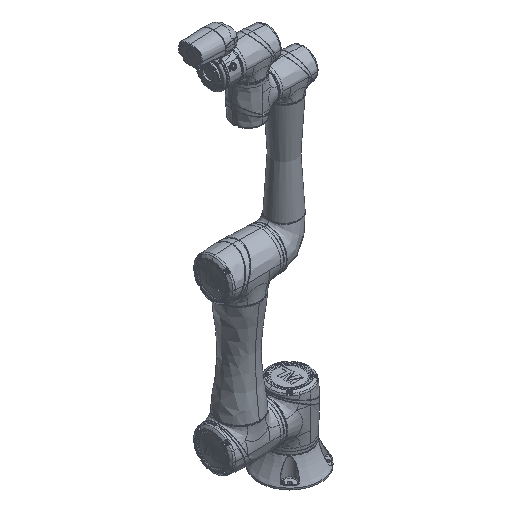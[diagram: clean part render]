
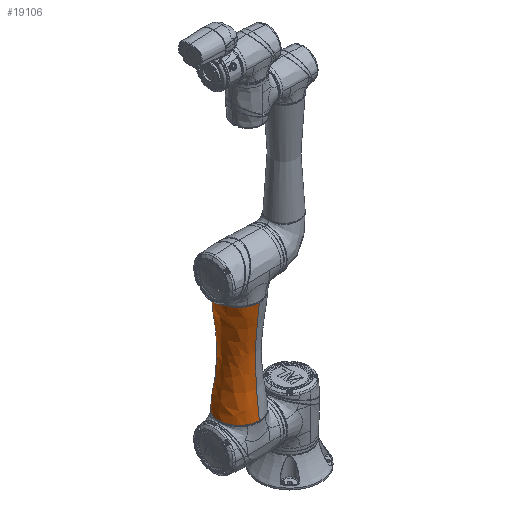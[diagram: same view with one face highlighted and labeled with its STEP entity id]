
A CAD part, isometric view. The second image highlights one B-rep face of the part: STEP entity #19106.
In plain terms, the highlighted face is a revolution surface.
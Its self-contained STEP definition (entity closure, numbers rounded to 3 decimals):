
#18900=CARTESIAN_POINT('',(0.,147.5,0.));
#18901=DIRECTION('',(0.,-1.,0.));
#18902=DIRECTION('',(1.,0.,0.));
#18903=AXIS2_PLACEMENT_3D('',#18900,#18901,#18902);
#18915=CARTESIAN_POINT('',(-58.469,147.5,0.));
#18916=CARTESIAN_POINT('',(-58.469,138.775,
0.));
#18917=CARTESIAN_POINT('',(-56.381,117.825,
0.));
#18918=CARTESIAN_POINT('',(-51.162,80.727,
0.));
#18919=CARTESIAN_POINT('',(-46.837,40.891,
0.));
#18920=CARTESIAN_POINT('',(-45.196,0.,
0.));
#18921=CARTESIAN_POINT('',(-46.837,-40.891,
0.));
#18922=CARTESIAN_POINT('',(-51.162,-80.727,
0.));
#18923=CARTESIAN_POINT('',(-56.381,-117.825,
0.));
#18924=CARTESIAN_POINT('',(-58.469,-138.775,
0.));
#18925=CARTESIAN_POINT('',(-58.469,-147.5,0.));
#18932=CARTESIAN_POINT('',(0.,-147.5,0.));
#18933=DIRECTION('',(0.,1.,0.));
#18934=DIRECTION('',(-1.,0.,0.));
#18935=AXIS2_PLACEMENT_3D('',#18932,#18933,#18934);
#18947=CARTESIAN_POINT('',(58.469,147.5,0.));
#18948=CARTESIAN_POINT('',(58.469,138.775,
0.));
#18949=CARTESIAN_POINT('',(56.381,117.825,
0.));
#18950=CARTESIAN_POINT('',(51.162,80.727,
0.));
#18951=CARTESIAN_POINT('',(46.837,40.891,
0.));
#18952=CARTESIAN_POINT('',(45.196,0.,
0.));
#18953=CARTESIAN_POINT('',(46.837,-40.891,
0.));
#18954=CARTESIAN_POINT('',(51.162,-80.727,
0.));
#18955=CARTESIAN_POINT('',(56.381,-117.825,
0.));
#18956=CARTESIAN_POINT('',(58.469,-138.775,
0.));
#18957=CARTESIAN_POINT('',(58.469,-147.5,0.));
#18995=CARTESIAN_POINT('',(-58.469,147.5,0.));
#18996=CARTESIAN_POINT('',(58.469,147.5,0.));
#18997=VERTEX_POINT('',#18995);
#18998=VERTEX_POINT('',#18996);
#19003=CARTESIAN_POINT('',(58.469,-147.5,0.));
#19004=CARTESIAN_POINT('',(-58.469,-147.5,0.));
#19005=VERTEX_POINT('',#19003);
#19006=VERTEX_POINT('',#19004);
#19082=CARTESIAN_POINT('',(-58.426,150.462,0.));
#19083=CARTESIAN_POINT('',(-58.455,149.499,0.));
#19084=CARTESIAN_POINT('',(-58.59,139.99,0.));
#19085=CARTESIAN_POINT('',(-56.381,117.825,0.));
#19086=CARTESIAN_POINT('',(-51.162,80.727,0.));
#19087=CARTESIAN_POINT('',(-46.837,40.891,0.));
#19088=CARTESIAN_POINT('',(-45.196,0.,0.));
#19089=CARTESIAN_POINT('',(-46.837,-40.891,0.));
#19090=CARTESIAN_POINT('',(-51.162,-80.727,0.));
#19091=CARTESIAN_POINT('',(-56.381,-117.825,0.));
#19092=CARTESIAN_POINT('',(-58.585,-139.935,0.));
#19093=CARTESIAN_POINT('',(-58.456,-149.411,0.));
#19094=CARTESIAN_POINT('',(-58.43,-150.333,0.));
#19096=CARTESIAN_POINT('',(0.,0.,0.));
#19097=DIRECTION('',(0.,-1.,0.));
#19098=AXIS1_PLACEMENT('',#19096,#19097);
#19099=SURFACE_OF_REVOLUTION('',#19095,#19098);
#19100=ORIENTED_EDGE('',*,*,#19071,.F.);
#19101=ORIENTED_EDGE('',*,*,#19060,.F.);
#19102=ORIENTED_EDGE('',*,*,#19026,.F.);
#19103=ORIENTED_EDGE('',*,*,#19057,.T.);
#19104=EDGE_LOOP('',(#19100,#19101,#19102,#19103));
#19105=FACE_OUTER_BOUND('',#19104,.F.);
#19106=ADVANCED_FACE('',(#19105),#19099,.T.);
#18904=CIRCLE('',#18903,58.469);
#18926=B_SPLINE_CURVE_WITH_KNOTS('',3,(#18915,#18916,#18917,#18918,#18919,
#18920,#18921,#18922,#18923,#18924,#18925),.UNSPECIFIED.,.F.,.F.,(4,1,1,1,1,1,1,
1,4),(0.,0.125,0.25,0.375,0.5,0.625,0.75,0.875,
1.),.UNSPECIFIED.);
#18936=CIRCLE('',#18935,58.469);
#18958=B_SPLINE_CURVE_WITH_KNOTS('',3,(#18947,#18948,#18949,#18950,#18951,
#18952,#18953,#18954,#18955,#18956,#18957),.UNSPECIFIED.,.F.,.F.,(4,1,1,1,1,1,1,
1,4),(0.,0.125,0.25,0.375,0.5,0.625,0.75,0.875,
1.),.UNSPECIFIED.);
#19026=EDGE_CURVE('',#18998,#18997,#18904,.T.);
#19057=EDGE_CURVE('',#18998,#19005,#18958,.T.);
#19060=EDGE_CURVE('',#18997,#19006,#18926,.T.);
#19071=EDGE_CURVE('',#19006,#19005,#18936,.T.);
#19095=B_SPLINE_CURVE_WITH_KNOTS('',3,(#19082,#19083,#19084,#19085,#19086,
#19087,#19088,#19089,#19090,#19091,#19092,#19093,#19094),.UNSPECIFIED.,.F.,.F.,(
4,1,1,1,1,1,1,1,1,1,4),(0.,0.014,0.136,
0.257,0.379,0.5,0.622,
0.743,0.865,0.987,1.),.UNSPECIFIED.);
